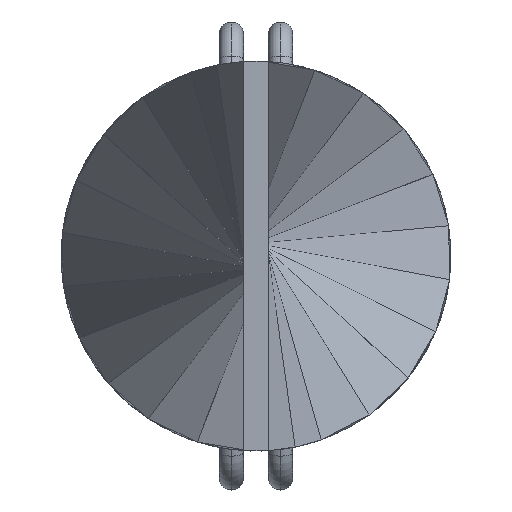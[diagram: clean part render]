
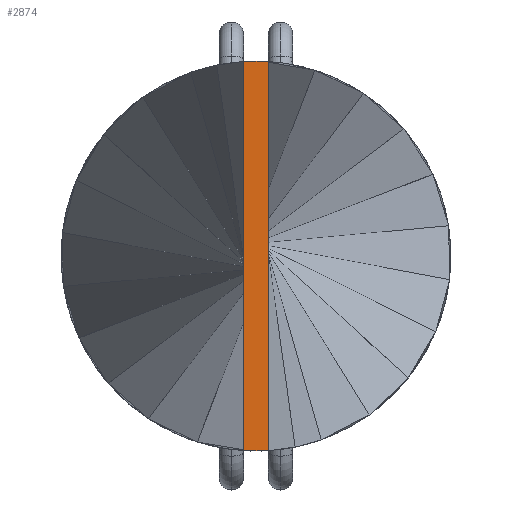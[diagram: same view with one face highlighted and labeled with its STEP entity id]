
A CAD part, left-side view. The second image highlights one B-rep face of the part: STEP entity #2874.
In plain terms, the highlighted planar face has unit normal (-1, 0, 0).
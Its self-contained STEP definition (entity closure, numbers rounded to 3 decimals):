
#255 = AXIS2_PLACEMENT_3D ( 'NONE', #1187, #3074, #1463 ) ;
#292 = CARTESIAN_POINT ( 'NONE',  ( -150., 0.5, -7.9 ) ) ;
#518 = VERTEX_POINT ( 'NONE', #2547 ) ;
#760 = EDGE_CURVE ( 'NONE', #518, #2666, #1671, .T. ) ;
#822 = LINE ( 'NONE', #2019, #1426 ) ;
#844 = VECTOR ( 'NONE', #3188, 1000. ) ;
#903 = VERTEX_POINT ( 'NONE', #3079 ) ;
#999 = ORIENTED_EDGE ( 'NONE', *, *, #3178, .T. ) ;
#1133 = DIRECTION ( 'NONE',  ( 0., 0., 1. ) ) ;
#1187 = CARTESIAN_POINT ( 'NONE',  ( -150., 0., 0. ) ) ;
#1207 = DIRECTION ( 'NONE',  ( 0., -1., 0. ) ) ;
#1426 = VECTOR ( 'NONE', #1207, 1000. ) ;
#1463 = DIRECTION ( 'NONE',  ( 0., 0., 1. ) ) ;
#1464 = CARTESIAN_POINT ( 'NONE',  ( -150., 0.5, 7.9 ) ) ;
#1465 = ORIENTED_EDGE ( 'NONE', *, *, #2202, .T. ) ;
#1520 = VERTEX_POINT ( 'NONE', #2507 ) ;
#1549 = LINE ( 'NONE', #2650, #844 ) ;
#1592 = ORIENTED_EDGE ( 'NONE', *, *, #760, .T. ) ;
#1668 = EDGE_LOOP ( 'NONE', ( #999, #2514, #1465, #1592 ) ) ;
#1671 = LINE ( 'NONE', #1464, #2295 ) ;
#1708 = LINE ( 'NONE', #3283, #3049 ) ;
#2019 = CARTESIAN_POINT ( 'NONE',  ( -150., 0.5, -7.9 ) ) ;
#2174 = FACE_OUTER_BOUND ( 'NONE', #1668, .T. ) ;
#2202 = EDGE_CURVE ( 'NONE', #903, #518, #1549, .T. ) ;
#2295 = VECTOR ( 'NONE', #3292, 1000. ) ;
#2507 = CARTESIAN_POINT ( 'NONE',  ( -150., -0.5, -7.9 ) ) ;
#2514 = ORIENTED_EDGE ( 'NONE', *, *, #2760, .T. ) ;
#2547 = CARTESIAN_POINT ( 'NONE',  ( -150., 0.5, 7.9 ) ) ;
#2650 = CARTESIAN_POINT ( 'NONE',  ( -150., -0.5, 7.9 ) ) ;
#2666 = VERTEX_POINT ( 'NONE', #292 ) ;
#2760 = EDGE_CURVE ( 'NONE', #1520, #903, #1708, .T. ) ;
#2801 = PLANE ( 'NONE',  #255 ) ;
#2874 = ADVANCED_FACE ( 'NONE', ( #2174 ), #2801, .T. ) ;
#3049 = VECTOR ( 'NONE', #1133, 1000. ) ;
#3074 = DIRECTION ( 'NONE',  ( -1., 0., 0. ) ) ;
#3079 = CARTESIAN_POINT ( 'NONE',  ( -150., -0.5, 7.9 ) ) ;
#3178 = EDGE_CURVE ( 'NONE', #2666, #1520, #822, .T. ) ;
#3188 = DIRECTION ( 'NONE',  ( 0., 1., 0. ) ) ;
#3283 = CARTESIAN_POINT ( 'NONE',  ( -150., -0.5, -7.9 ) ) ;
#3292 = DIRECTION ( 'NONE',  ( 0., 0., -1. ) ) ;
